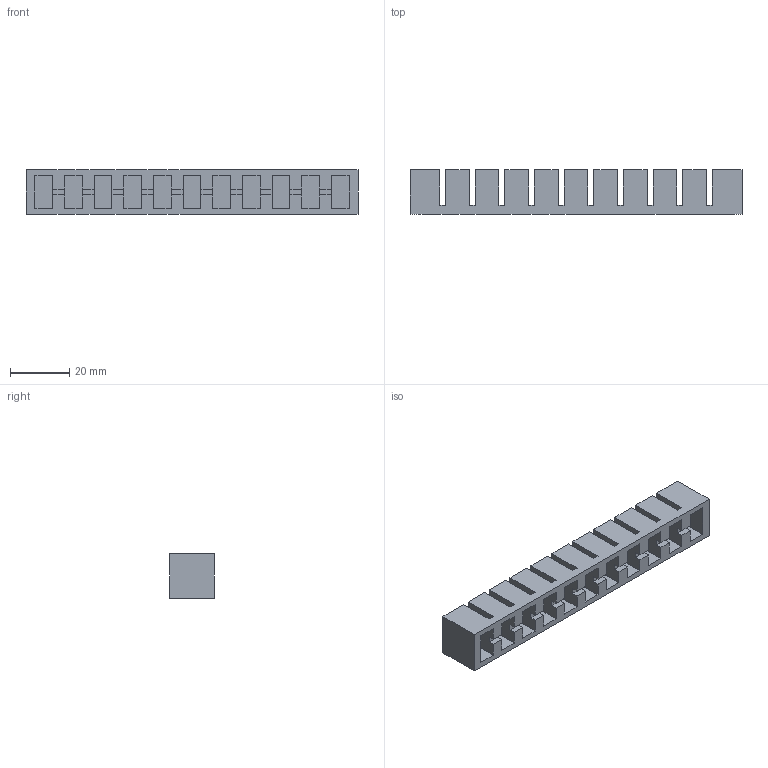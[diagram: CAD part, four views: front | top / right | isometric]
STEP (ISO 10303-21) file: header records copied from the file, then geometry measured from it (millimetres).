
FILE_DESCRIPTION (( 'STEP AP203' ), '1' );
FILE_NAME ('Abaqus_main.STEP', '2013-07-23T00:01:02', ( '' ), ( '' ), 'SwSTEP 2.0', 'SolidWorks 2012', '' );
FILE_SCHEMA (( 'CONFIG_CONTROL_DESIGN' ));
Length unit declared in the file: millimetre
Products named in the file (1): Abaqus_main
Bounding box: 112 x 15 x 15 mm (x, y, z)
Volume: 12002 mm3; surface area: 15232 mm2
Topology: 1 solids, 1 shells, 131 faces, 384 edges, 256 vertices
Faces by surface type: plane 131
Entity records: 4335 total; most frequent: CARTESIAN_POINT 772, ORIENTED_EDGE 768, DIRECTION 648, EDGE_CURVE 384, VECTOR 384, LINE 384, VERTEX_POINT 256, EDGE_LOOP 132
